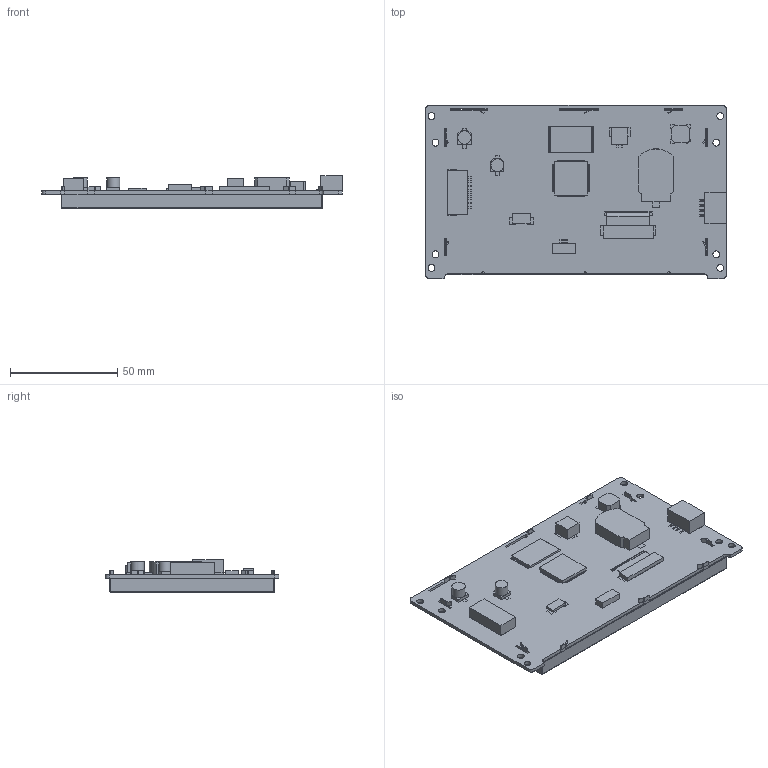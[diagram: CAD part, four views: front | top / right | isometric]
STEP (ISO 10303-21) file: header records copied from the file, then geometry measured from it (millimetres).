
FILE_DESCRIPTION(/* description */ (''),/* implementation_level */ '2;1');
FILE_NAME(/* name */ '3D_SDWa050T67AN.stp',/* time_stamp */ '2020-09-11T10:32:53+08:00',/* author */ (''),/* organization */ (''),/* preprocessor_version */ 'ST-DEVELOPER v15',/* originating_system */ 'SIEMENS PLM Software NX 8.5',/* authorisation */ '');
FILE_SCHEMA (('AP203_CONFIGURATION_CONTROLLED_3D_DESIGN_OF_MECHANICAL_PARTS_AND_ASSEMBLIES_MIM_LF { 1 0 10303 403 2 1 2}'));
Length unit declared in the file: millimetre
Products named in the file (1): SDWa050T67A
Bounding box: 140 x 80.9 x 15.11 mm (x, y, z)
Volume: 81387.2 mm3; surface area: 77638.4 mm2
Topology: 315 solids, 315 shells, 1996 faces, 4095 edges, 2730 vertices
Faces by surface type: plane 1944, cylinder 49, extrusion 3
Full cylindrical faces by diameter (mm): 3.2 x8, 5.931 x1, 6.258 x1
Entity records: 65578 total; most frequent: CARTESIAN_POINT 8992, ORIENTED_EDGE 8166, DIRECTION 8161, EDGE_CURVE 4083, VECTOR 3981, LINE 3978, VERTEX_POINT 2730, AXIS2_PLACEMENT_3D 2090
